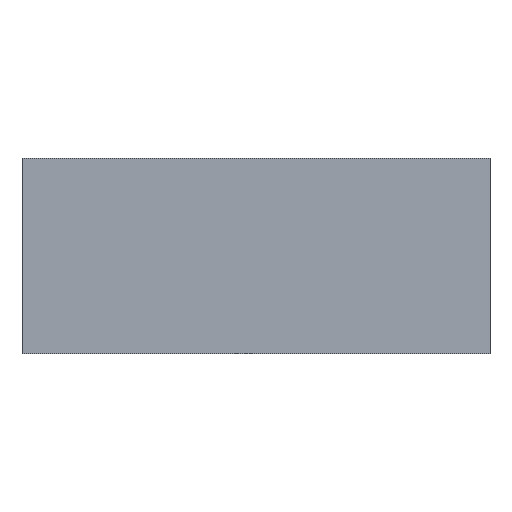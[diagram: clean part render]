
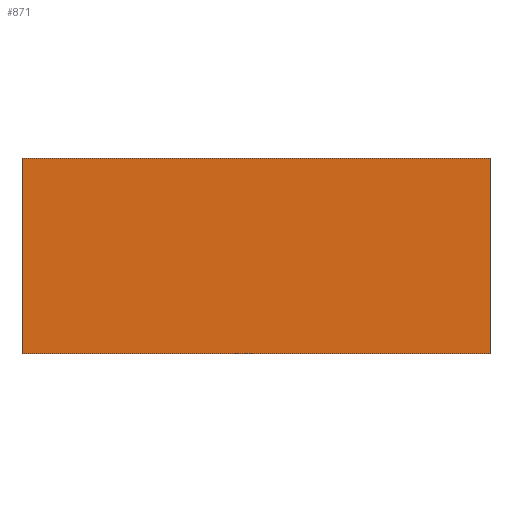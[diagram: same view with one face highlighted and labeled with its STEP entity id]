
A CAD part, front view. The second image highlights one B-rep face of the part: STEP entity #871.
In plain terms, the highlighted planar face has unit normal (0, -1, 0).
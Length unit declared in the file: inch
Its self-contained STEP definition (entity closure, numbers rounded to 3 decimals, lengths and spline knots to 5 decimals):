
#82 = DIRECTION ( 'NONE',  ( 0., 0., -1. ) ) ;
#90 = EDGE_CURVE ( 'NONE', #862, #742, #602, .T. ) ;
#95 = EDGE_CURVE ( 'NONE', #744, #862, #907, .T. ) ;
#105 = CARTESIAN_POINT ( 'NONE',  ( 18.98505, -2.79, -7.95 ) ) ;
#124 = EDGE_LOOP ( 'NONE', ( #532, #582, #701, #517 ) ) ;
#136 = DIRECTION ( 'NONE',  ( 0., 0., 1. ) ) ;
#177 = DIRECTION ( 'NONE',  ( -1., 0., 0. ) ) ;
#196 = DIRECTION ( 'NONE',  ( 0., 0., 1. ) ) ;
#200 = PLANE ( 'NONE',  #572 ) ;
#251 = CARTESIAN_POINT ( 'NONE',  ( -18.98505, -2.79, -7.95 ) ) ;
#274 = LINE ( 'NONE', #515, #716 ) ;
#283 = EDGE_CURVE ( 'NONE', #840, #744, #274, .T. ) ;
#300 = DIRECTION ( 'NONE',  ( 1., 0., 0. ) ) ;
#311 = VECTOR ( 'NONE', #196, 39.37008 ) ;
#337 = CARTESIAN_POINT ( 'NONE',  ( 18.98505, -2.79, -7.95 ) ) ;
#370 = VECTOR ( 'NONE', #82, 39.37008 ) ;
#418 = EDGE_CURVE ( 'NONE', #742, #840, #731, .T. ) ;
#438 = CARTESIAN_POINT ( 'NONE',  ( -18.98505, -2.79, -7.95 ) ) ;
#472 = VECTOR ( 'NONE', #177, 39.37008 ) ;
#479 = CARTESIAN_POINT ( 'NONE',  ( -17.98505, -2.79, 6.95 ) ) ;
#515 = CARTESIAN_POINT ( 'NONE',  ( -18.98505, -2.79, -7.95 ) ) ;
#517 = ORIENTED_EDGE ( 'NONE', *, *, #90, .T. ) ;
#532 = ORIENTED_EDGE ( 'NONE', *, *, #418, .T. ) ;
#550 = CARTESIAN_POINT ( 'NONE',  ( 18.98505, -2.79, 7.95 ) ) ;
#572 = AXIS2_PLACEMENT_3D ( 'NONE', #479, #943, #136 ) ;
#582 = ORIENTED_EDGE ( 'NONE', *, *, #283, .T. ) ;
#602 = LINE ( 'NONE', #607, #472 ) ;
#607 = CARTESIAN_POINT ( 'NONE',  ( -18.98505, -2.79, 7.95 ) ) ;
#610 = FACE_OUTER_BOUND ( 'NONE', #124, .T. ) ;
#614 = CARTESIAN_POINT ( 'NONE',  ( -18.98505, -2.79, 7.95 ) ) ;
#701 = ORIENTED_EDGE ( 'NONE', *, *, #95, .T. ) ;
#716 = VECTOR ( 'NONE', #300, 39.37008 ) ;
#731 = LINE ( 'NONE', #438, #370 ) ;
#742 = VERTEX_POINT ( 'NONE', #614 ) ;
#744 = VERTEX_POINT ( 'NONE', #105 ) ;
#840 = VERTEX_POINT ( 'NONE', #251 ) ;
#862 = VERTEX_POINT ( 'NONE', #550 ) ;
#871 = ADVANCED_FACE ( 'NONE', ( #610 ), #200, .F. ) ;
#907 = LINE ( 'NONE', #337, #311 ) ;
#943 = DIRECTION ( 'NONE',  ( 0., 1., 0. ) ) ;
